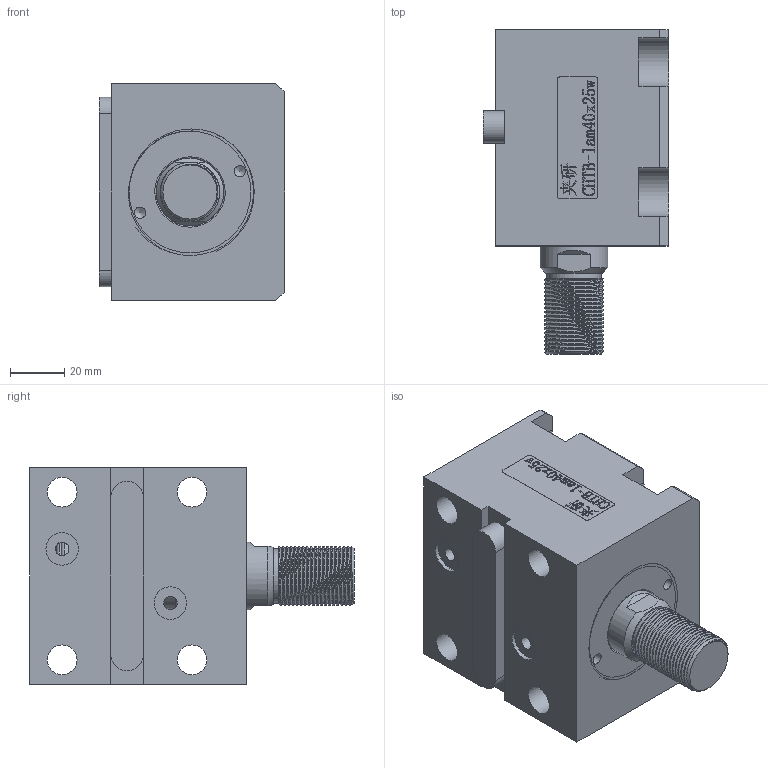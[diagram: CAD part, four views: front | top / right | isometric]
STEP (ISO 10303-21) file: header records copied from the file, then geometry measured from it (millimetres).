
FILE_DESCRIPTION(/* description */ (''),/* implementation_level */ '2;1');
FILE_NAME(/* name */ 'CHTB-lam40x25w.stp',/* time_stamp */ '2022-04-29T17:28:37+08:00',/* author */ (''),/* organization */ (''),/* preprocessor_version */ 'ST-DEVELOPER v16.7',/* originating_system */ 'SIEMENS PLM Software NX 12.0',/* authorisation */ '');
FILE_SCHEMA (('AUTOMOTIVE_DESIGN { 1 0 10303 214 3 1 1 1 }'));
Length unit declared in the file: millimetre
Products named in the file (1): CHTB-lam40x25w
Bounding box: 68.5 x 120 x 80 mm (x, y, z)
Volume: 371779.1 mm3; surface area: 78434.3 mm2
Topology: 4 solids, 5 shells, 494 faces, 1420 edges, 973 vertices
Faces by surface type: plane 331, extrusion 100, cylinder 40, torus 10, bspline 8, cone 5
Full cylindrical faces by diameter (mm): 4.2 x2, 5 x3, 11 x4, 12 x2, 20 x1, 25 x2, 29 x1, 34 x2, 40 x4, 45 x1
Entity records: 24623 total; most frequent: CARTESIAN_POINT 9727, ORIENTED_EDGE 2734, DIRECTION 2011, EDGE_CURVE 1367, VECTOR 1057, VERTEX_POINT 959, LINE 957, EDGE_LOOP 582
